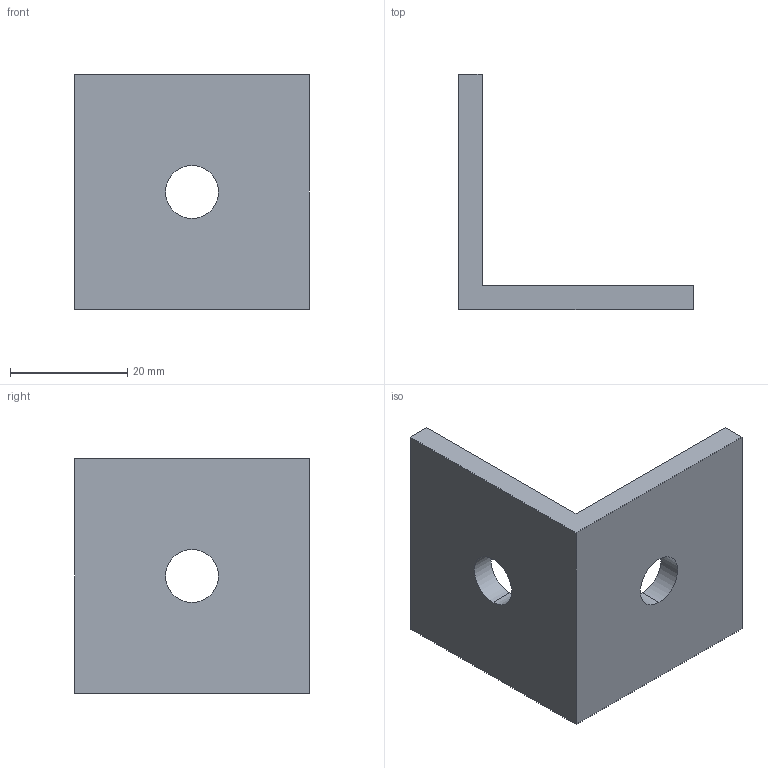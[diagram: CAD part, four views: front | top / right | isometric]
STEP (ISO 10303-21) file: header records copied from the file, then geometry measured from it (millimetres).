
FILE_DESCRIPTION (( 'STEP AP214' ), '1' );
FILE_NAME ('110311 Hoekbeugel verzinkt 40x40x40 (26-10-2015).STEP', '2015-10-26T10:03:44', ( '' ), ( '' ), 'SwSTEP 2.0', 'SolidWorks 2012', '' );
FILE_SCHEMA (( 'AUTOMOTIVE_DESIGN' ));
Length unit declared in the file: millimetre
Products named in the file (1): 110311 Hoekbeugel verzinkt 40x40x40 (26-10-2015)
Bounding box: 40 x 40 x 40 mm (x, y, z)
Volume: 11651.1 mm3; surface area: 6979.7 mm2
Topology: 1 solids, 1 shells, 12 faces, 30 edges, 20 vertices
Faces by surface type: plane 8, cylinder 4
Entity records: 514 total; most frequent: DIRECTION 64, CARTESIAN_POINT 63, ORIENTED_EDGE 60, EDGE_CURVE 30, LINE 22, VECTOR 22, AXIS2_PLACEMENT_3D 21, VERTEX_POINT 20
